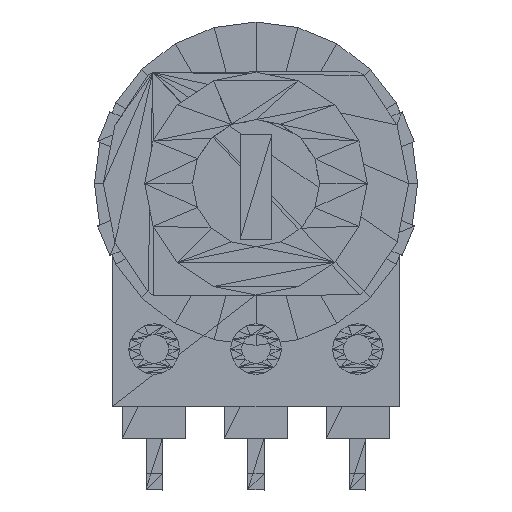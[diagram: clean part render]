
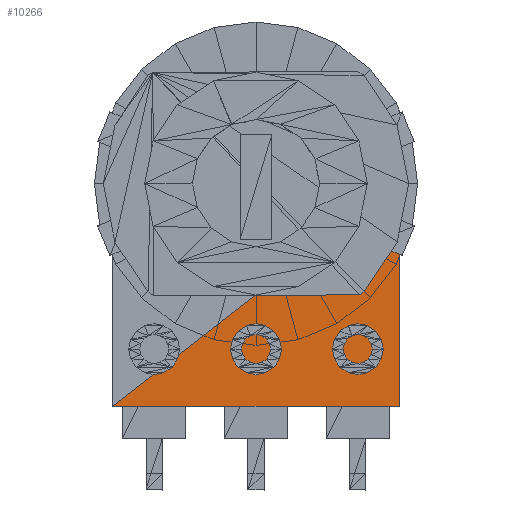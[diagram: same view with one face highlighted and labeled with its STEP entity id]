
A CAD part, top view. The second image highlights one B-rep face of the part: STEP entity #10266.
In plain terms, the highlighted planar face has unit normal (0, 0, 1).
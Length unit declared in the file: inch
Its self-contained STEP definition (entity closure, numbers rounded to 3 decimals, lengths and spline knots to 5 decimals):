
#10091=CARTESIAN_POINT('',(0.28125,0.58999,0.28129));
#10092=VERTEX_POINT('',#10091);
#10135=CARTESIAN_POINT('',(-0.28125,0.15249,0.2812));
#10136=VERTEX_POINT('',#10135);
#10174=CARTESIAN_POINT('',(0.28125,0.15249,0.2812));
#10175=VERTEX_POINT('',#10174);
#10183=CARTESIAN_POINT('',(0.28125,0.15249,0.2812));
#10184=DIRECTION('',(0.,1.,0.));
#10185=VECTOR('',#10184,0.4375);
#10186=LINE('',#10183,#10185);
#10187=EDGE_CURVE('',#10175,#10092,#10186,.T.);
#10213=CARTESIAN_POINT('',(-0.28125,0.15249,0.2812));
#10214=DIRECTION('',(1.,0.,-0.));
#10215=VECTOR('',#10214,0.5625);
#10216=LINE('',#10213,#10215);
#10217=EDGE_CURVE('',#10136,#10175,#10216,.T.);
#10245=CARTESIAN_POINT('',(-0.28125,0.15249,0.2812));
#10246=DIRECTION('',(0.789,0.614,0.));
#10247=VECTOR('',#10246,0.71261);
#10248=LINE('',#10245,#10247);
#10249=EDGE_CURVE('',#10136,#10092,#10248,.T.);
#10256=CARTESIAN_POINT('',(0.28125,0.15249,0.2812));
#10257=DIRECTION('',(0.,0.,1.));
#10258=DIRECTION('',(1.,0.,0.));
#10259=AXIS2_PLACEMENT_3D('',#10256,#10257,#10258);
#10260=PLANE('',#10259);
#10261=ORIENTED_EDGE('',*,*,#10187,.T.);
#10262=ORIENTED_EDGE('',*,*,#10249,.F.);
#10263=ORIENTED_EDGE('',*,*,#10217,.T.);
#10264=EDGE_LOOP('',(#10261,#10262,#10263));
#10265=FACE_BOUND('',#10264,.T.);
#10266=ADVANCED_FACE('',(#10265),#10260,.T.);
